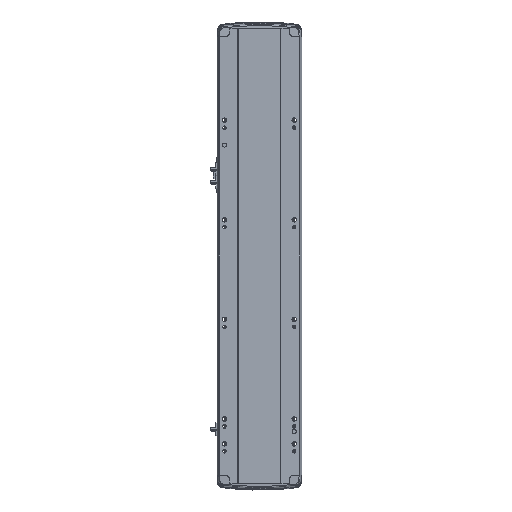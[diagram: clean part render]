
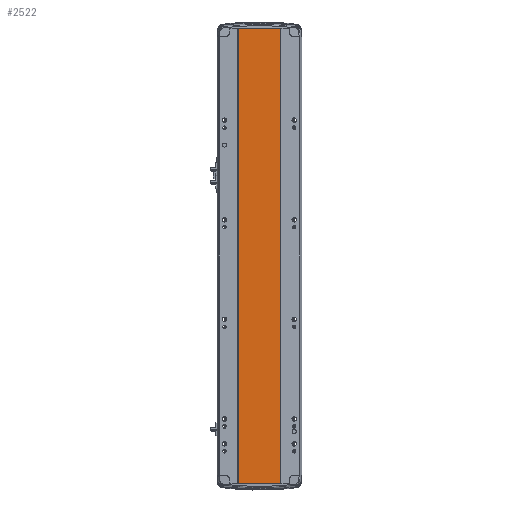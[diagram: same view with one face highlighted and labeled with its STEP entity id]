
A CAD part, front view. The second image highlights one B-rep face of the part: STEP entity #2522.
In plain terms, the highlighted planar face has unit normal (0, -1, 0).
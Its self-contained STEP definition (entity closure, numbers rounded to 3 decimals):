
#735 = CARTESIAN_POINT ( 'NONE',  ( -41.791, 1., 914.5 ) ) ;
#1838 = DIRECTION ( 'NONE',  ( -1., 0., 0. ) ) ;
#2522 = ADVANCED_FACE ( 'NONE', ( #8318 ), #14864, .F. ) ;
#3289 = ORIENTED_EDGE ( 'NONE', *, *, #35877, .F. ) ;
#3884 = ORIENTED_EDGE ( 'NONE', *, *, #36848, .F. ) ;
#5550 = CARTESIAN_POINT ( 'NONE',  ( 41.793, 0.998, 0. ) ) ;
#6748 = VECTOR ( 'NONE', #35443, 1000. ) ;
#6796 = CARTESIAN_POINT ( 'NONE',  ( 41.793, 0.998, 914.5 ) ) ;
#7093 = CARTESIAN_POINT ( 'NONE',  ( -41.791, 1., 914.5 ) ) ;
#7672 = LINE ( 'NONE', #30576, #33765 ) ;
#8318 = FACE_OUTER_BOUND ( 'NONE', #18594, .T. ) ;
#9043 = VERTEX_POINT ( 'NONE', #6796 ) ;
#9737 = EDGE_CURVE ( 'NONE', #32198, #24603, #37720, .T. ) ;
#10032 = LINE ( 'NONE', #24672, #15918 ) ;
#11293 = DIRECTION ( 'NONE',  ( 0., 1., 0. ) ) ;
#14190 = CARTESIAN_POINT ( 'NONE',  ( -41.791, 1., 0. ) ) ;
#14864 = PLANE ( 'NONE',  #34596 ) ;
#15918 = VECTOR ( 'NONE', #28252, 1000. ) ;
#16398 = EDGE_CURVE ( 'NONE', #24603, #30195, #10032, .T. ) ;
#18594 = EDGE_LOOP ( 'NONE', ( #30851, #3884, #3289, #25099 ) ) ;
#20844 = DIRECTION ( 'NONE',  ( 0., 0., -1. ) ) ;
#22303 = DIRECTION ( 'NONE',  ( 1., 0., 0. ) ) ;
#24305 = CARTESIAN_POINT ( 'NONE',  ( 0., 0.999, 914.5 ) ) ;
#24603 = VERTEX_POINT ( 'NONE', #14190 ) ;
#24672 = CARTESIAN_POINT ( 'NONE',  ( 0., 0.999, 0. ) ) ;
#25099 = ORIENTED_EDGE ( 'NONE', *, *, #9737, .T. ) ;
#25857 = CARTESIAN_POINT ( 'NONE',  ( 0., 0.999, 914.5 ) ) ;
#28252 = DIRECTION ( 'NONE',  ( 1., 0., 0. ) ) ;
#30195 = VERTEX_POINT ( 'NONE', #5550 ) ;
#30576 = CARTESIAN_POINT ( 'NONE',  ( 41.793, 0.998, 914.5 ) ) ;
#30851 = ORIENTED_EDGE ( 'NONE', *, *, #16398, .T. ) ;
#32198 = VERTEX_POINT ( 'NONE', #7093 ) ;
#32304 = VECTOR ( 'NONE', #22303, 1000. ) ;
#33765 = VECTOR ( 'NONE', #20844, 1000. ) ;
#34306 = LINE ( 'NONE', #25857, #32304 ) ;
#34596 = AXIS2_PLACEMENT_3D ( 'NONE', #24305, #11293, #1838 ) ;
#35443 = DIRECTION ( 'NONE',  ( 0., 0., -1. ) ) ;
#35877 = EDGE_CURVE ( 'NONE', #32198, #9043, #34306, .T. ) ;
#36848 = EDGE_CURVE ( 'NONE', #9043, #30195, #7672, .T. ) ;
#37720 = LINE ( 'NONE', #735, #6748 ) ;
